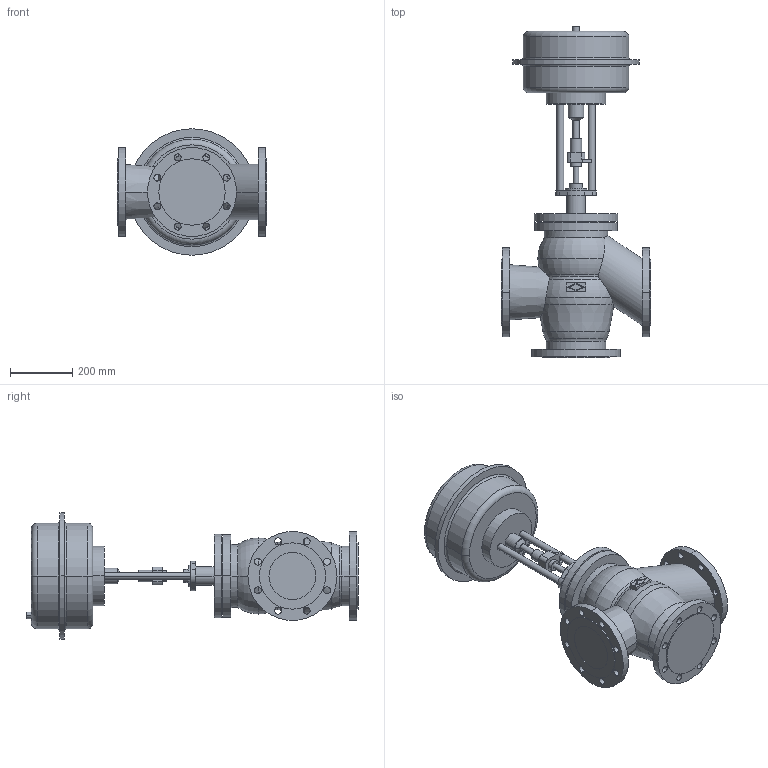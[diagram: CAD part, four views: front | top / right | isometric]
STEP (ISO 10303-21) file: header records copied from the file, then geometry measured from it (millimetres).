
FILE_DESCRIPTION(('OneSpaceDesigner STEP Export'),'2;1');
FILE_NAME('c000000411.stp','2007-01-26T12:29:49',(''),(''),'OneSpace Designer STEP processor for AP214 (Solid Model)','OneSpace Designer 14.00B 27-May-2006 (C) CoCreate Software GmbH','');
FILE_SCHEMA(('AUTOMOTIVE_DESIGN { 1 0 10303 214 1 1 1 1 }'));
Length unit declared in the file: millimetre
Products named in the file (2): 1; 2
Bounding box: 480 x 1063 x 405 mm (x, y, z)
Volume: 48195017.2 mm3; surface area: 1504070.7 mm2
Topology: 2 solids, 2 shells, 218 faces, 530 edges, 348 vertices
Faces by surface type: cylinder 116, plane 70, torus 26, cone 6
Entity records: 5944 total; most frequent: CARTESIAN_POINT 1228, ORIENTED_EDGE 1060, DIRECTION 840, EDGE_CURVE 530, VERTEX_POINT 348, AXIS2_PLACEMENT_3D 316, EDGE_LOOP 298, FACE_OUTER_BOUND 218
